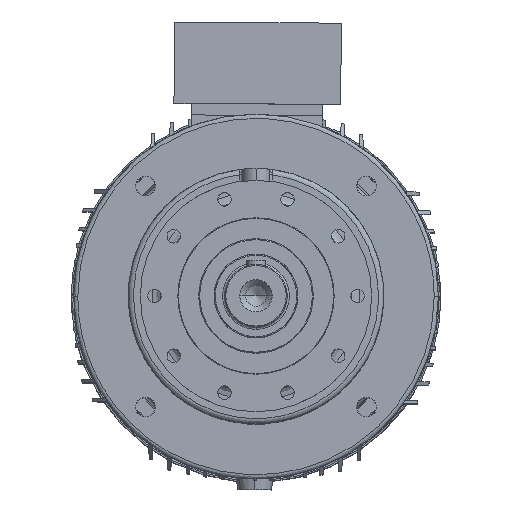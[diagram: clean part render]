
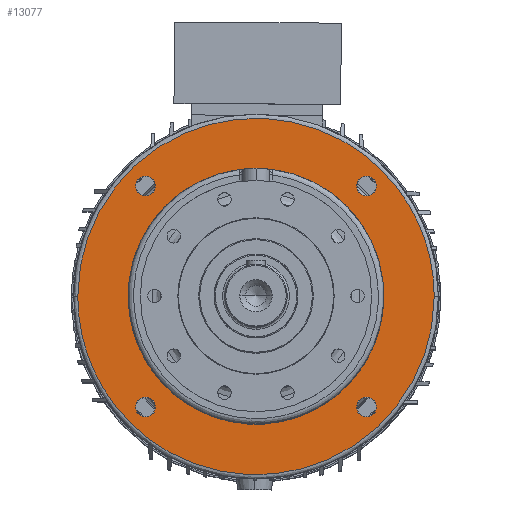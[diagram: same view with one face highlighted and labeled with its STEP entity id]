
A CAD part, top view. The second image highlights one B-rep face of the part: STEP entity #13077.
In plain terms, the highlighted planar face has unit normal (0, 0, 1).
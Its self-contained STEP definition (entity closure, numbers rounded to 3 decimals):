
#3810 = CARTESIAN_POINT ( 'NONE',  ( 122., 0., -116.5 ) ) ;
#3926 = CARTESIAN_POINT ( 'NONE',  ( -122., 0., -116.5 ) ) ;
#4020 = CARTESIAN_POINT ( 'NONE',  ( -171., 0., -116.5 ) ) ;
#4079 = CARTESIAN_POINT ( 'NONE',  ( 171., 0., -116.5 ) ) ;
#4258 = CARTESIAN_POINT ( 'NONE',  ( 96.566, 106.066, -116.5 ) ) ;
#4269 = CARTESIAN_POINT ( 'NONE',  ( -106.066, 115.566, -116.5 ) ) ;
#4271 = CARTESIAN_POINT ( 'NONE',  ( -115.566, -106.066, -116.5 ) ) ;
#4274 = CARTESIAN_POINT ( 'NONE',  ( -96.566, -106.066, -116.5 ) ) ;
#4280 = CARTESIAN_POINT ( 'NONE',  ( 115.566, 106.066, -116.5 ) ) ;
#4294 = CARTESIAN_POINT ( 'NONE',  ( 106.066, -115.566, -116.5 ) ) ;
#4296 = CARTESIAN_POINT ( 'NONE',  ( 106.066, -96.566, -116.5 ) ) ;
#4309 = CARTESIAN_POINT ( 'NONE',  ( -106.066, 96.566, -116.5 ) ) ;
#5271 = CARTESIAN_POINT ( 'NONE',  ( -106.066, -106.066, -116.5 ) ) ;
#5272 = DIRECTION ( 'NONE',  ( 0., 0., -1. ) ) ;
#5294 = DIRECTION ( 'NONE',  ( -1., 0., 0. ) ) ;
#9258 = EDGE_CURVE ( 'NONE', #23870, #23734, #44751, .T. ) ;
#13077 = ADVANCED_FACE ( 'NONE', ( #35247, #35292, #35239, #35236, #35262, #35248 ), #29400, .T. ) ;
#17334 = CARTESIAN_POINT ( 'NONE',  ( -106.066, 106.066, -116.5 ) ) ;
#17336 = DIRECTION ( 'NONE',  ( 0., 1., 0. ) ) ;
#17351 = DIRECTION ( 'NONE',  ( 0., 0., -1. ) ) ;
#17470 = DIRECTION ( 'NONE',  ( 0., 0., -1. ) ) ;
#17499 = CARTESIAN_POINT ( 'NONE',  ( -106.066, -106.066, -116.5 ) ) ;
#17518 = DIRECTION ( 'NONE',  ( -1., 0., 0. ) ) ;
#17779 = DIRECTION ( 'NONE',  ( 0., 0., -1. ) ) ;
#17824 = CARTESIAN_POINT ( 'NONE',  ( 0., 0., -116.5 ) ) ;
#17840 = DIRECTION ( 'NONE',  ( -1., 0., 0. ) ) ;
#17876 = DIRECTION ( 'NONE',  ( 0., 1., 0. ) ) ;
#17924 = DIRECTION ( 'NONE',  ( 0., 0., -1. ) ) ;
#17942 = CARTESIAN_POINT ( 'NONE',  ( 106.066, -106.066, -116.5 ) ) ;
#18064 = CARTESIAN_POINT ( 'NONE',  ( -171., 0., -116.5 ) ) ;
#18066 = CARTESIAN_POINT ( 'NONE',  ( 106.066, 106.066, -116.5 ) ) ;
#18075 = CARTESIAN_POINT ( 'NONE',  ( 171., 0., -116.5 ) ) ;
#18081 = CARTESIAN_POINT ( 'NONE',  ( 171., 342., -116.5 ) ) ;
#18088 = DIRECTION ( 'NONE',  ( 0., 0., -1. ) ) ;
#18108 = CARTESIAN_POINT ( 'NONE',  ( -171., 342., -116.5 ) ) ;
#18172 = DIRECTION ( 'NONE',  ( -1., 0., 0. ) ) ;
#23217 = VERTEX_POINT ( 'NONE', #3810 ) ;
#23325 = VERTEX_POINT ( 'NONE', #3926 ) ;
#23734 = VERTEX_POINT ( 'NONE', #4020 ) ;
#23870 = VERTEX_POINT ( 'NONE', #4079 ) ;
#23901 = ORIENTED_EDGE ( 'NONE', *, *, #31750, .T. ) ;
#23967 = ORIENTED_EDGE ( 'NONE', *, *, #46781, .T. ) ;
#24015 = ORIENTED_EDGE ( 'NONE', *, *, #46791, .T. ) ;
#24036 = ORIENTED_EDGE ( 'NONE', *, *, #31749, .F. ) ;
#24048 = ORIENTED_EDGE ( 'NONE', *, *, #46708, .T. ) ;
#26085 = ORIENTED_EDGE ( 'NONE', *, *, #46738, .T. ) ;
#26096 = ORIENTED_EDGE ( 'NONE', *, *, #46773, .T. ) ;
#26101 = ORIENTED_EDGE ( 'NONE', *, *, #31765, .T. ) ;
#26104 = ORIENTED_EDGE ( 'NONE', *, *, #31779, .T. ) ;
#26111 = ORIENTED_EDGE ( 'NONE', *, *, #31729, .T. ) ;
#26151 = ORIENTED_EDGE ( 'NONE', *, *, #9258, .F. ) ;
#26155 = ORIENTED_EDGE ( 'NONE', *, *, #31718, .T. ) ;
#26452 = VERTEX_POINT ( 'NONE', #4258 ) ;
#26495 = VERTEX_POINT ( 'NONE', #4294 ) ;
#26498 = VERTEX_POINT ( 'NONE', #4296 ) ;
#26530 = VERTEX_POINT ( 'NONE', #4269 ) ;
#26637 = VERTEX_POINT ( 'NONE', #4309 ) ;
#26672 = VERTEX_POINT ( 'NONE', #4274 ) ;
#26676 = VERTEX_POINT ( 'NONE', #4271 ) ;
#26735 = VERTEX_POINT ( 'NONE', #4280 ) ;
#29368 = DIRECTION ( 'NONE',  ( 1., 0., 0. ) ) ;
#29400 = PLANE ( 'NONE',  #52420 ) ;
#29440 = CARTESIAN_POINT ( 'NONE',  ( 0., 122., -116.5 ) ) ;
#29442 = DIRECTION ( 'NONE',  ( 0., 0., 1. ) ) ;
#31718 = EDGE_CURVE ( 'NONE', #23217, #23325, #46363, .T. ) ;
#31729 = EDGE_CURVE ( 'NONE', #26498, #26495, #46404, .T. ) ;
#31749 = EDGE_CURVE ( 'NONE', #23734, #23870, #50388, .T. ) ;
#31750 = EDGE_CURVE ( 'NONE', #26452, #26735, #46417, .T. ) ;
#31765 = EDGE_CURVE ( 'NONE', #26530, #26637, #46431, .T. ) ;
#31779 = EDGE_CURVE ( 'NONE', #26676, #26672, #46443, .T. ) ;
#35236 = FACE_BOUND ( 'NONE', #36529, .T. ) ;
#35239 = FACE_BOUND ( 'NONE', #36533, .T. ) ;
#35247 = FACE_OUTER_BOUND ( 'NONE', #36565, .T. ) ;
#35248 = FACE_BOUND ( 'NONE', #36539, .T. ) ;
#35262 = FACE_BOUND ( 'NONE', #36548, .T. ) ;
#35292 = FACE_BOUND ( 'NONE', #36543, .T. ) ;
#36529 = EDGE_LOOP ( 'NONE', ( #26104, #24048 ) ) ;
#36533 = EDGE_LOOP ( 'NONE', ( #26101, #26096 ) ) ;
#36539 = EDGE_LOOP ( 'NONE', ( #23901, #24015 ) ) ;
#36543 = EDGE_LOOP ( 'NONE', ( #23967, #26155 ) ) ;
#36548 = EDGE_LOOP ( 'NONE', ( #26111, #26085 ) ) ;
#36565 = EDGE_LOOP ( 'NONE', ( #26151, #24036 ) ) ;
#40369 = CIRCLE ( 'NONE', #63701, 9.5 ) ;
#40950 = CIRCLE ( 'NONE', #63565, 9.5 ) ;
#41008 = CIRCLE ( 'NONE', #63622, 9.5 ) ;
#41012 = CIRCLE ( 'NONE', #63488, 9.5 ) ;
#41096 = CIRCLE ( 'NONE', #63631, 122. ) ;
#44751 =( BOUNDED_CURVE ( )  B_SPLINE_CURVE ( 3, ( #59797, #59834, #59814, #59812 ),
 .UNSPECIFIED., .F., .T. ) 
 B_SPLINE_CURVE_WITH_KNOTS ( ( 4, 4 ),
 ( 0., 0.5 ),
 .UNSPECIFIED. ) 
 CURVE ( )  GEOMETRIC_REPRESENTATION_ITEM ( )  RATIONAL_B_SPLINE_CURVE ( ( 1., 0.333, 0.333, 1. ) ) 
 REPRESENTATION_ITEM ( '' )  );
#46363 = CIRCLE ( 'NONE', #63207, 122. ) ;
#46404 = CIRCLE ( 'NONE', #63260, 9.5 ) ;
#46417 = CIRCLE ( 'NONE', #63225, 9.5 ) ;
#46431 = CIRCLE ( 'NONE', #63208, 9.5 ) ;
#46443 = CIRCLE ( 'NONE', #63218, 9.5 ) ;
#46708 = EDGE_CURVE ( 'NONE', #26672, #26676, #40950, .T. ) ;
#46738 = EDGE_CURVE ( 'NONE', #26495, #26498, #41012, .T. ) ;
#46773 = EDGE_CURVE ( 'NONE', #26637, #26530, #41008, .T. ) ;
#46781 = EDGE_CURVE ( 'NONE', #23325, #23217, #41096, .T. ) ;
#46791 = EDGE_CURVE ( 'NONE', #26735, #26452, #40369, .T. ) ;
#50388 =( BOUNDED_CURVE ( )  B_SPLINE_CURVE ( 3, ( #18064, #18108, #18081, #18075 ),
 .UNSPECIFIED., .F., .T. ) 
 B_SPLINE_CURVE_WITH_KNOTS ( ( 4, 4 ),
 ( 0.5, 1. ),
 .UNSPECIFIED. ) 
 CURVE ( )  GEOMETRIC_REPRESENTATION_ITEM ( )  RATIONAL_B_SPLINE_CURVE ( ( 1., 0.333, 0.333, 1. ) ) 
 REPRESENTATION_ITEM ( '' )  );
#52420 = AXIS2_PLACEMENT_3D ( 'NONE', #29440, #29442, #29368 ) ;
#59797 = CARTESIAN_POINT ( 'NONE',  ( 171., 0., -116.5 ) ) ;
#59812 = CARTESIAN_POINT ( 'NONE',  ( -171., 0., -116.5 ) ) ;
#59814 = CARTESIAN_POINT ( 'NONE',  ( -171., -342., -116.5 ) ) ;
#59834 = CARTESIAN_POINT ( 'NONE',  ( 171., -342., -116.5 ) ) ;
#61159 = DIRECTION ( 'NONE',  ( 0., 0., -1. ) ) ;
#61169 = CARTESIAN_POINT ( 'NONE',  ( -106.066, 106.066, -116.5 ) ) ;
#61184 = DIRECTION ( 'NONE',  ( 0., 1., 0. ) ) ;
#61285 = DIRECTION ( 'NONE',  ( 0., 0., -1. ) ) ;
#61290 = CARTESIAN_POINT ( 'NONE',  ( 0., 0., -116.5 ) ) ;
#61291 = DIRECTION ( 'NONE',  ( -1., 0., 0. ) ) ;
#61301 = DIRECTION ( 'NONE',  ( -1., 0., 0. ) ) ;
#61322 = DIRECTION ( 'NONE',  ( 0., 0., -1. ) ) ;
#61331 = CARTESIAN_POINT ( 'NONE',  ( 106.066, 106.066, -116.5 ) ) ;
#61732 = CARTESIAN_POINT ( 'NONE',  ( 106.066, -106.066, -116.5 ) ) ;
#61734 = DIRECTION ( 'NONE',  ( 0., 1., 0. ) ) ;
#61766 = DIRECTION ( 'NONE',  ( 0., 0., -1. ) ) ;
#63207 = AXIS2_PLACEMENT_3D ( 'NONE', #17824, #17779, #17840 ) ;
#63208 = AXIS2_PLACEMENT_3D ( 'NONE', #17334, #17351, #17336 ) ;
#63218 = AXIS2_PLACEMENT_3D ( 'NONE', #17499, #17470, #17518 ) ;
#63225 = AXIS2_PLACEMENT_3D ( 'NONE', #18066, #18088, #18172 ) ;
#63260 = AXIS2_PLACEMENT_3D ( 'NONE', #17942, #17924, #17876 ) ;
#63488 = AXIS2_PLACEMENT_3D ( 'NONE', #61732, #61766, #61734 ) ;
#63565 = AXIS2_PLACEMENT_3D ( 'NONE', #5271, #5272, #5294 ) ;
#63622 = AXIS2_PLACEMENT_3D ( 'NONE', #61169, #61159, #61184 ) ;
#63631 = AXIS2_PLACEMENT_3D ( 'NONE', #61290, #61285, #61291 ) ;
#63701 = AXIS2_PLACEMENT_3D ( 'NONE', #61331, #61322, #61301 ) ;
